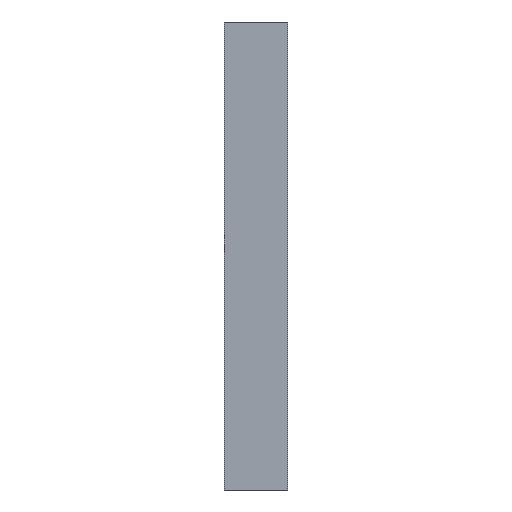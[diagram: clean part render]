
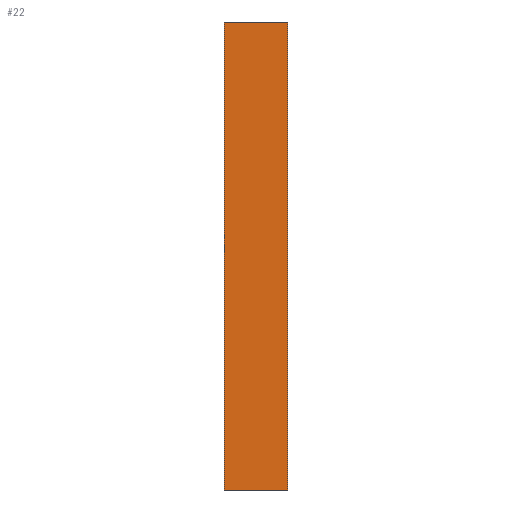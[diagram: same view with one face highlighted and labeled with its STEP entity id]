
A CAD part, left-side view. The second image highlights one B-rep face of the part: STEP entity #22.
In plain terms, the highlighted planar face has unit normal (-1, 0, 0).
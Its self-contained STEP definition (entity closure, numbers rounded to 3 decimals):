
#22 = ADVANCED_FACE ( 'NONE', ( #917 ), #193, .F. ) ;
#54 = VERTEX_POINT ( 'NONE', #293 ) ;
#55 = VERTEX_POINT ( 'NONE', #299 ) ;
#63 = VERTEX_POINT ( 'NONE', #307 ) ;
#77 = VERTEX_POINT ( 'NONE', #321 ) ;
#193 = PLANE ( 'NONE',  #1245 ) ;
#194 = CARTESIAN_POINT ( 'NONE',  ( -254., 65., 239.5 ) ) ;
#199 = DIRECTION ( 'NONE',  ( 1., 0., 0. ) ) ;
#200 = DIRECTION ( 'NONE',  ( 0., 0., -1. ) ) ;
#293 = CARTESIAN_POINT ( 'NONE',  ( -254., 0., -239.5 ) ) ;
#299 = CARTESIAN_POINT ( 'NONE',  ( -254., 0., 239.5 ) ) ;
#307 = CARTESIAN_POINT ( 'NONE',  ( -254., 65., 239.5 ) ) ;
#321 = CARTESIAN_POINT ( 'NONE',  ( -254., 65., -239.5 ) ) ;
#422 = CARTESIAN_POINT ( 'NONE',  ( -254., 65., 239.5 ) ) ;
#425 = DIRECTION ( 'NONE',  ( 0., 0., 1. ) ) ;
#438 = CARTESIAN_POINT ( 'NONE',  ( -254., 0., 239.5 ) ) ;
#441 = DIRECTION ( 'NONE',  ( 0., 0., 1. ) ) ;
#516 = CARTESIAN_POINT ( 'NONE',  ( -254., 65., -239.5 ) ) ;
#517 = DIRECTION ( 'NONE',  ( 0., -1., 0. ) ) ;
#570 = CARTESIAN_POINT ( 'NONE',  ( -254., 65., 239.5 ) ) ;
#571 = DIRECTION ( 'NONE',  ( 0., -1., 0. ) ) ;
#667 = VECTOR ( 'NONE', #571, 1000. ) ;
#668 = LINE ( 'NONE', #570, #667 ) ;
#721 = VECTOR ( 'NONE', #517, 1000. ) ;
#722 = LINE ( 'NONE', #516, #721 ) ;
#792 = VECTOR ( 'NONE', #441, 1000. ) ;
#805 = LINE ( 'NONE', #438, #792 ) ;
#813 = VECTOR ( 'NONE', #425, 1000. ) ;
#820 = LINE ( 'NONE', #422, #813 ) ;
#917 = FACE_OUTER_BOUND ( 'NONE', #963, .T. ) ;
#923 = ORIENTED_EDGE ( 'NONE', *, *, #1256, .T. ) ;
#927 = ORIENTED_EDGE ( 'NONE', *, *, #1237, .F. ) ;
#928 = ORIENTED_EDGE ( 'NONE', *, *, #1345, .F. ) ;
#963 = EDGE_LOOP ( 'NONE', ( #923, #928, #927, #1045 ) ) ;
#1045 = ORIENTED_EDGE ( 'NONE', *, *, #1304, .T. ) ;
#1237 = EDGE_CURVE ( 'NONE', #77, #63, #820, .T. ) ;
#1245 = AXIS2_PLACEMENT_3D ( 'NONE', #194, #199, #200 ) ;
#1256 = EDGE_CURVE ( 'NONE', #54, #55, #805, .T. ) ;
#1304 = EDGE_CURVE ( 'NONE', #77, #54, #722, .T. ) ;
#1345 = EDGE_CURVE ( 'NONE', #63, #55, #668, .T. ) ;
